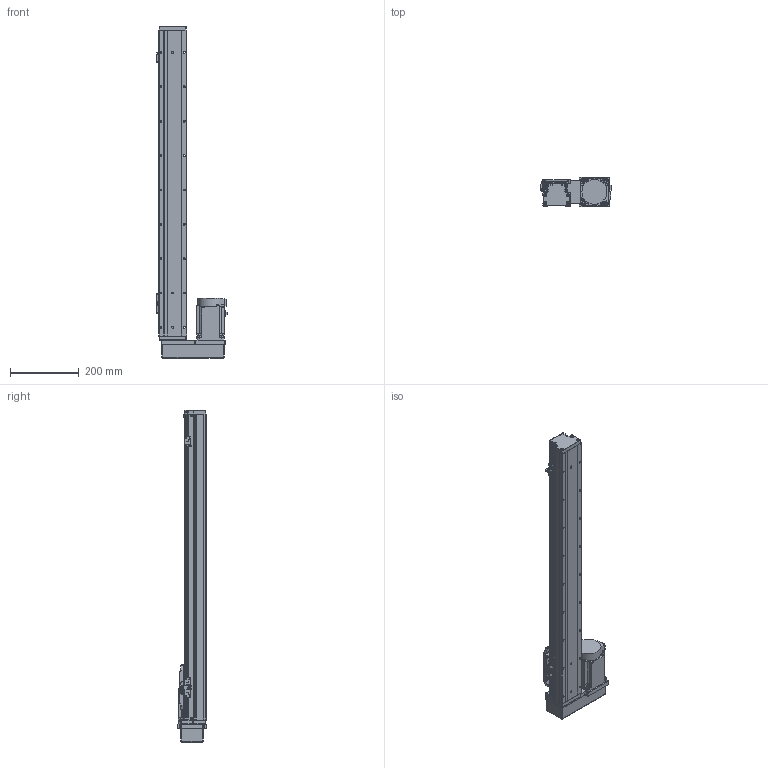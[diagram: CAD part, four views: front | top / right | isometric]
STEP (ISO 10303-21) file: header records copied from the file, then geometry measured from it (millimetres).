
FILE_DESCRIPTION (( 'STEP AP203' ), '1' );
FILE_NAME ('GTH8-700-BR-M75-C4.step', '2023-02-14T02:34:34', ( '微软用户' ), ( '微软中国' ), 'SwSTEP 2.0', 'SolidWorks 2020', '' );
FILE_SCHEMA (( 'CONFIG_CONTROL_DESIGN' ));
Length unit declared in the file: millimetre
Products named in the file (18): GBT 70.3-M3℅6; GBT96.1-2002 3×0.8; GTH80-022; BTH-M3X5X6; GTH80-001_700; GBT 70.1-M3℅6; CTHA86-015-3_CTHA86-015-4; GTH80-003; GBT 70.1-M4×16; CTHA86-035; GTH80-004; GTH80-028; hg-kn73j_-s100; GTH80-006; GTH50-024; GTH8-700-BR-M75-C4; GTH80-013; GTH50-023
Assembly tree (57 placements, depth 2):
  GTH8-700-BR-M75-C4
    GTH80-001_700
    GTH80-003
    GTH80-004
    GTH80-006
    GTH80-013
    GBT 70.3-M3℅6  x4
    GTH80-022
    GBT 70.1-M3℅6  x14
    GBT 70.1-M4×16  x8
    GTH80-028  x2
    GTH50-024  x3
    GTH50-023  x3
    GBT96.1-2002 3×0.8  x6
    BTH-M3X5X6  x8
    CTHA86-015-3_CTHA86-015-4
    CTHA86-035
    hg-kn73j_-s100
Bounding box: 204.7 x 87 x 966 mm (x, y, z)
Volume: 5399424.5 mm3; surface area: 538961.9 mm2
Topology: 59 solids, 59 shells, 2199 faces, 5106 edges, 3128 vertices
Faces by surface type: plane 1153, cylinder 631, cone 243, torus 158, sphere 12, bspline 2
Entity records: 39736 total; most frequent: CARTESIAN_POINT 6671, DIRECTION 6557, ORIENTED_EDGE 6022, EDGE_CURVE 3011, AXIS2_PLACEMENT_3D 2314, LINE 1929, VECTOR 1929, VERTEX_POINT 1903
